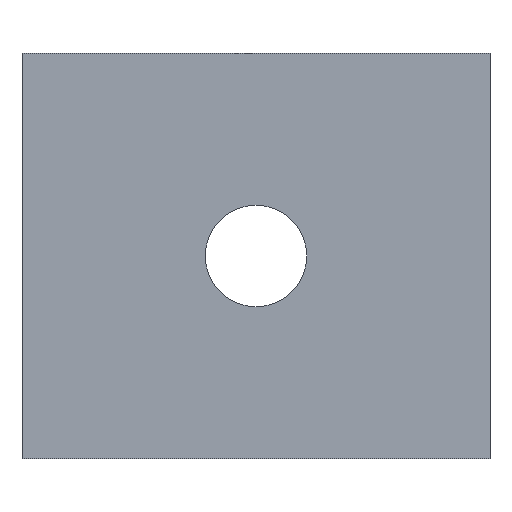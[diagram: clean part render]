
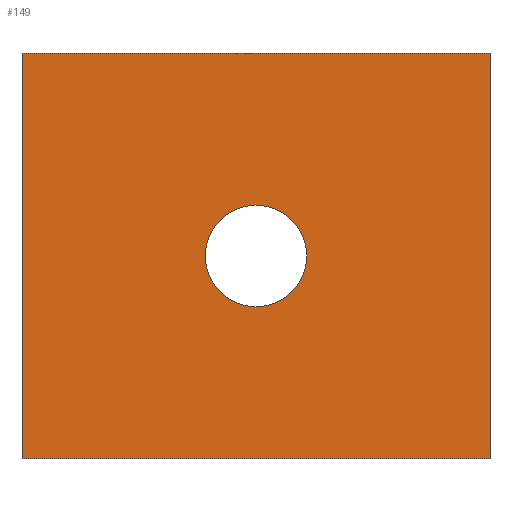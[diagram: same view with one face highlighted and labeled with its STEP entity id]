
A CAD part, front view. The second image highlights one B-rep face of the part: STEP entity #149.
In plain terms, the highlighted planar face has unit normal (0, -1, 0).
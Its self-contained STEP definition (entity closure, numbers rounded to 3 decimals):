
#4 = VERTEX_POINT ( 'NONE', #46 ) ;
#7 = DIRECTION ( 'NONE',  ( 0., 0., 1. ) ) ;
#16 = CARTESIAN_POINT ( 'NONE',  ( -15., -15., -26. ) ) ;
#21 = EDGE_CURVE ( 'NONE', #28, #292, #56, .T. ) ;
#28 = VERTEX_POINT ( 'NONE', #16 ) ;
#31 = EDGE_CURVE ( 'NONE', #285, #4, #138, .T. ) ;
#34 = ORIENTED_EDGE ( 'NONE', *, *, #338, .T. ) ;
#45 = EDGE_CURVE ( 'NONE', #446, #152, #125, .T. ) ;
#46 = CARTESIAN_POINT ( 'NONE',  ( 0., -15., -16.25 ) ) ;
#51 = PLANE ( 'NONE',  #287 ) ;
#56 = LINE ( 'NONE', #323, #423 ) ;
#76 = DIRECTION ( 'NONE',  ( 0., -1., 0. ) ) ;
#82 = VECTOR ( 'NONE', #311, 1000. ) ;
#92 = CARTESIAN_POINT ( 'NONE',  ( -15., -15., 0. ) ) ;
#95 = ORIENTED_EDGE ( 'NONE', *, *, #45, .T. ) ;
#108 = DIRECTION ( 'NONE',  ( 0., 0., -1. ) ) ;
#125 = LINE ( 'NONE', #212, #313 ) ;
#138 = CIRCLE ( 'NONE', #180, 3.25 ) ;
#144 = ORIENTED_EDGE ( 'NONE', *, *, #412, .F. ) ;
#145 = CIRCLE ( 'NONE', #369, 3.25 ) ;
#148 = CARTESIAN_POINT ( 'NONE',  ( -15., -15., -26. ) ) ;
#149 = ADVANCED_FACE ( 'NONE', ( #242, #175 ), #51, .T. ) ;
#152 = VERTEX_POINT ( 'NONE', #216 ) ;
#161 = DIRECTION ( 'NONE',  ( 0., -1., 0. ) ) ;
#165 = LINE ( 'NONE', #454, #82 ) ;
#175 = FACE_OUTER_BOUND ( 'NONE', #362, .T. ) ;
#180 = AXIS2_PLACEMENT_3D ( 'NONE', #289, #76, #396 ) ;
#199 = EDGE_LOOP ( 'NONE', ( #144, #328 ) ) ;
#212 = CARTESIAN_POINT ( 'NONE',  ( 15., -15., -26. ) ) ;
#216 = CARTESIAN_POINT ( 'NONE',  ( 15., -15., 0. ) ) ;
#242 = FACE_BOUND ( 'NONE', #199, .T. ) ;
#285 = VERTEX_POINT ( 'NONE', #418 ) ;
#287 = AXIS2_PLACEMENT_3D ( 'NONE', #148, #294, #108 ) ;
#289 = CARTESIAN_POINT ( 'NONE',  ( 0., -15., -13. ) ) ;
#292 = VERTEX_POINT ( 'NONE', #92 ) ;
#294 = DIRECTION ( 'NONE',  ( 0., -1., 0. ) ) ;
#311 = DIRECTION ( 'NONE',  ( 1., 0., 0. ) ) ;
#313 = VECTOR ( 'NONE', #361, 1000. ) ;
#323 = CARTESIAN_POINT ( 'NONE',  ( -15., -15., -26. ) ) ;
#328 = ORIENTED_EDGE ( 'NONE', *, *, #31, .F. ) ;
#338 = EDGE_CURVE ( 'NONE', #28, #446, #165, .T. ) ;
#347 = VECTOR ( 'NONE', #455, 1000. ) ;
#348 = ORIENTED_EDGE ( 'NONE', *, *, #389, .F. ) ;
#352 = CARTESIAN_POINT ( 'NONE',  ( -15., -15., 0. ) ) ;
#361 = DIRECTION ( 'NONE',  ( 0., 0., 1. ) ) ;
#362 = EDGE_LOOP ( 'NONE', ( #348, #416, #34, #95 ) ) ;
#369 = AXIS2_PLACEMENT_3D ( 'NONE', #392, #161, #425 ) ;
#389 = EDGE_CURVE ( 'NONE', #292, #152, #451, .T. ) ;
#392 = CARTESIAN_POINT ( 'NONE',  ( 0., -15., -13. ) ) ;
#396 = DIRECTION ( 'NONE',  ( 0., 0., -1. ) ) ;
#412 = EDGE_CURVE ( 'NONE', #4, #285, #145, .T. ) ;
#416 = ORIENTED_EDGE ( 'NONE', *, *, #21, .F. ) ;
#418 = CARTESIAN_POINT ( 'NONE',  ( 0., -15., -9.75 ) ) ;
#423 = VECTOR ( 'NONE', #7, 1000. ) ;
#425 = DIRECTION ( 'NONE',  ( 0., 0., -1. ) ) ;
#427 = CARTESIAN_POINT ( 'NONE',  ( 15., -15., -26. ) ) ;
#446 = VERTEX_POINT ( 'NONE', #427 ) ;
#451 = LINE ( 'NONE', #352, #347 ) ;
#454 = CARTESIAN_POINT ( 'NONE',  ( -15., -15., -26. ) ) ;
#455 = DIRECTION ( 'NONE',  ( 1., 0., 0. ) ) ;
